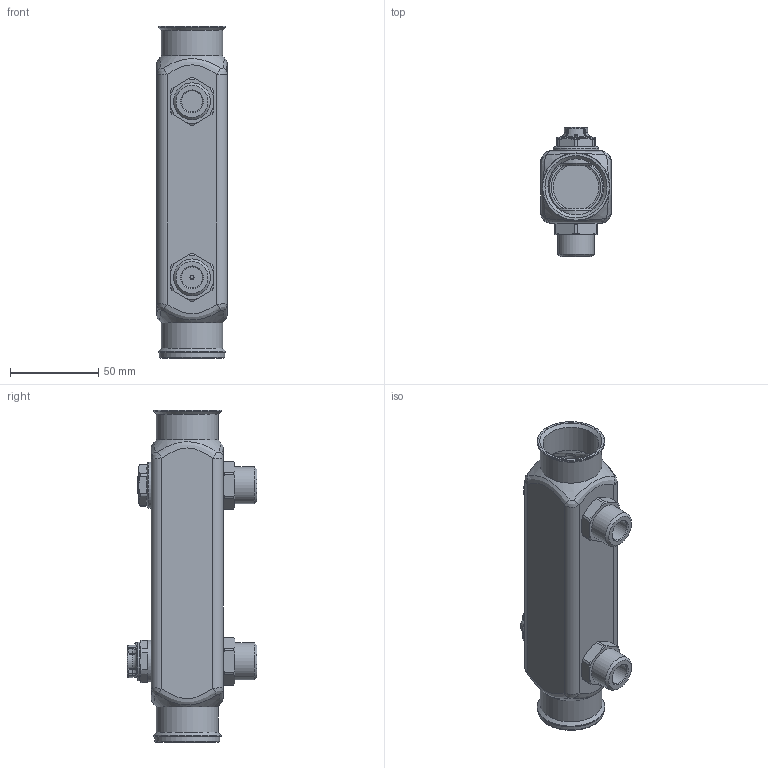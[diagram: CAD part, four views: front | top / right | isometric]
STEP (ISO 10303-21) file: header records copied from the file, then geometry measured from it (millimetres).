
FILE_DESCRIPTION(('STEP AP203'), '1');
FILE_NAME('VTc.510.SQ.060402', '2025-12-12T11:44:48', ('verevichevva'), ('Vesta'), 'C3D Converter', 'C3D Toolkit', '');
FILE_SCHEMA(('CONFIG_CONTROL_DESIGN'));
Length unit declared in the file: millimetre
Products named in the file (1): ВР.622621.192.000 СБ
Bounding box: 40 x 73.6 x 188.5 mm (x, y, z)
Volume: 69430.1 mm3; surface area: 68037.1 mm2
Topology: 1 solids, 12 shells, 715 faces, 1825 edges, 1165 vertices
Faces by surface type: plane 292, extrusion 118, cylinder 110, cone 93, bspline 72, torus 30
Full cylindrical faces by diameter (mm): 1.6 x1, 2.3 x1, 3.4 x1, 4.134 x1, 5 x1, 5.3 x1, 6.3 x2, 9.6 x1, 10.2 x1, 12 x2, 13 x1, 14 x1, 15.7 x1, 18 x3, 18.5 x1, 19 x4, 19.5 x1, 20 x1, 20.955 x5, 22 x1, 22.2 x4, 23 x1, 24 x1, 25.5 x1, 26 x1, 28 x1, 30 x2, 31.8 x3, 35 x2, 35.3 x2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
Entity records: 30431 total; most frequent: CARTESIAN_POINT 14736, ORIENTED_EDGE 3404, DIRECTION 2659, EDGE_CURVE 1702, VERTEX_POINT 1161, AXIS2_PLACEMENT_3D 889, EDGE_LOOP 887, VECTOR 881
